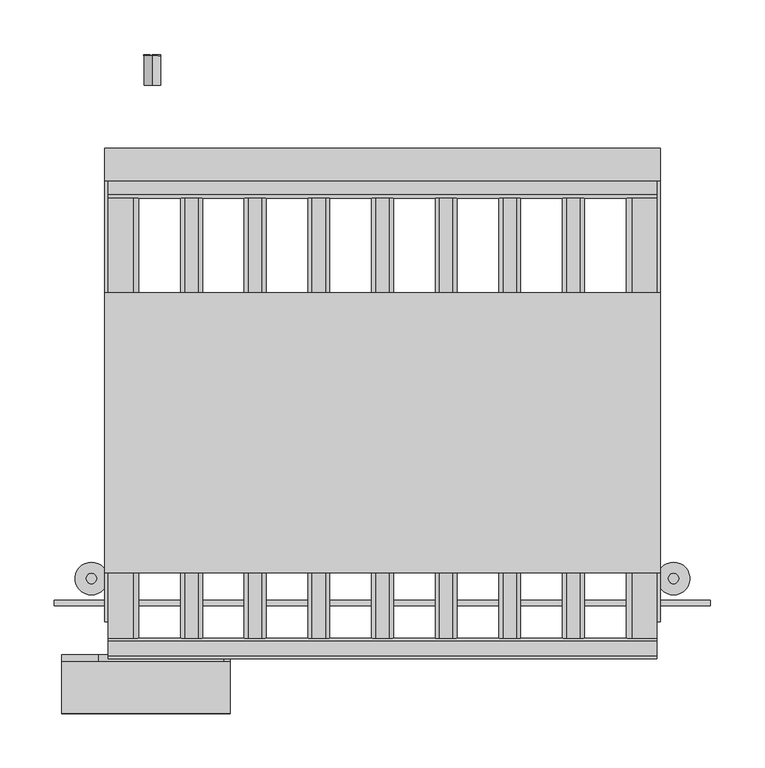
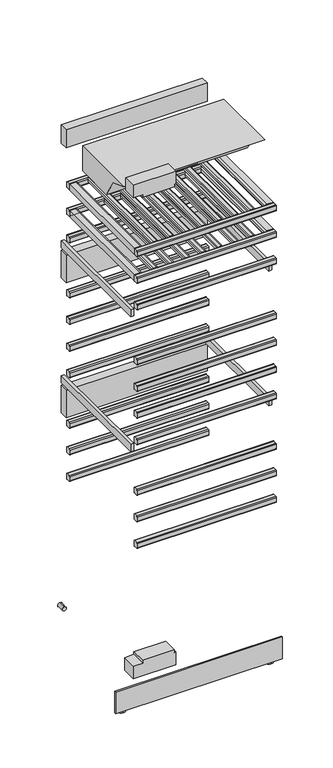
"""IFC4 building model written with IfcOpenShell, lengths in millimetres: proxy geometry, 11917850_ROK_KWT2611VI : 36261105_ROK_11917850_KWT2611VI."""

from ifc_helpers import new_model, si_unit, point, frame, frame_2d, origin, place, context, project, spatial, polyline, circle_curve, trimmed, segment, composite_curve, outline, extrude, source, transform, mapped, element, save
from ifc_brep_helpers import plane_surface, cylinder_surface, advanced_brep


def specialty_equipment_6ad02c8c(model_context):
    return source(origin(), model_context, "Body", "SolidModel", [
        extrude(outline(composite_curve([segment(polyline([(53.0, 680.0), (66.0, 680.0)]), True, "CONTINUOUS"), segment(trimmed(circle_curve(frame_2d((66.0, 677.0)), 3.0), [point((66.0, 680.0))], [point((69.0, 677.0))], False, "CARTESIAN"), True, "CONTINUOUS"), segment(polyline([(69.0, 677.0), (69.0, 661.0)]), True, "CONTINUOUS"), segment(trimmed(circle_curve(frame_2d((66.0, 661.0)), 3.0), [point((69.0, 661.0))], [point((66.0, 658.0))], False, "CARTESIAN"), True, "CONTINUOUS"), segment(polyline([(66.0, 658.0), (53.0, 658.0)]), True, "CONTINUOUS"), segment(trimmed(circle_curve(frame_2d((53.0, 661.0)), 3.0), [point((53.0, 658.0))], [point((50.0, 661.0))], False, "CARTESIAN"), True, "CONTINUOUS"), segment(polyline([(50.0, 661.0), (50.0, 677.0)]), True, "CONTINUOUS"), segment(trimmed(circle_curve(frame_2d((53.0, 677.0)), 3.0), [point((50.0, 677.0))], [point((53.0, 680.0))], False, "CARTESIAN"), True, "CONTINUOUS")], self_intersect=False)), frame((-252.0, 0.0, 0.0), z_axis=(1.0, 0.0, 0.0), x_axis=(0.0, 1.0, 0.0)), (0.0, 0.0, 1.0), 504.0),
        extrude(outline(composite_curve([segment(polyline([(476.0, 680.0), (489.0, 680.0)]), True, "CONTINUOUS"), segment(trimmed(circle_curve(frame_2d((489.0, 677.0)), 3.0), [point((489.0, 680.0))], [point((492.0, 677.0))], False, "CARTESIAN"), True, "CONTINUOUS"), segment(polyline([(492.0, 677.0), (492.0, 661.0)]), True, "CONTINUOUS"), segment(trimmed(circle_curve(frame_2d((489.0, 661.0)), 3.0), [point((492.0, 661.0))], [point((489.0, 658.0))], False, "CARTESIAN"), True, "CONTINUOUS"), segment(polyline([(489.0, 658.0), (476.0, 658.0)]), True, "CONTINUOUS"), segment(trimmed(circle_curve(frame_2d((476.0, 661.0)), 3.0), [point((476.0, 658.0))], [point((473.0, 661.0))], False, "CARTESIAN"), True, "CONTINUOUS"), segment(polyline([(473.0, 661.0), (473.0, 677.0)]), True, "CONTINUOUS"), segment(trimmed(circle_curve(frame_2d((476.0, 677.0)), 3.0), [point((473.0, 677.0))], [point((476.0, 680.0))], False, "CARTESIAN"), True, "CONTINUOUS")], self_intersect=False)), frame((-252.0, 0.0, 0.0), z_axis=(1.0, 0.0, 0.0), x_axis=(0.0, 1.0, 0.0)), (0.0, 0.0, 1.0), 504.0),
        extrude(outline(composite_curve([segment(polyline([(53.0, 782.0), (66.0, 782.0)]), True, "CONTINUOUS"), segment(trimmed(circle_curve(frame_2d((66.0, 779.0)), 3.0), [point((66.0, 782.0))], [point((69.0, 779.0))], False, "CARTESIAN"), True, "CONTINUOUS"), segment(polyline([(69.0, 779.0), (69.0, 763.0)]), True, "CONTINUOUS"), segment(trimmed(circle_curve(frame_2d((66.0, 763.0)), 3.0), [point((69.0, 763.0))], [point((66.0, 760.0))], False, "CARTESIAN"), True, "CONTINUOUS"), segment(polyline([(66.0, 760.0), (53.0, 760.0)]), True, "CONTINUOUS"), segment(trimmed(circle_curve(frame_2d((53.0, 763.0)), 3.0), [point((53.0, 760.0))], [point((50.0, 763.0))], False, "CARTESIAN"), True, "CONTINUOUS"), segment(polyline([(50.0, 763.0), (50.0, 779.0)]), True, "CONTINUOUS"), segment(trimmed(circle_curve(frame_2d((53.0, 779.0)), 3.0), [point((50.0, 779.0))], [point((53.0, 782.0))], False, "CARTESIAN"), True, "CONTINUOUS")], self_intersect=False)), frame((-252.0, 0.0, 0.0), z_axis=(1.0, 0.0, 0.0), x_axis=(0.0, 1.0, 0.0)), (0.0, 0.0, 1.0), 504.0),
        extrude(outline(composite_curve([segment(polyline([(476.0, 782.0), (489.0, 782.0)]), True, "CONTINUOUS"), segment(trimmed(circle_curve(frame_2d((489.0, 779.0)), 3.0), [point((489.0, 782.0))], [point((492.0, 779.0))], False, "CARTESIAN"), True, "CONTINUOUS"), segment(polyline([(492.0, 779.0), (492.0, 763.0)]), True, "CONTINUOUS"), segment(trimmed(circle_curve(frame_2d((489.0, 763.0)), 3.0), [point((492.0, 763.0))], [point((489.0, 760.0))], False, "CARTESIAN"), True, "CONTINUOUS"), segment(polyline([(489.0, 760.0), (476.0, 760.0)]), True, "CONTINUOUS"), segment(trimmed(circle_curve(frame_2d((476.0, 763.0)), 3.0), [point((476.0, 760.0))], [point((473.0, 763.0))], False, "CARTESIAN"), True, "CONTINUOUS"), segment(polyline([(473.0, 763.0), (473.0, 779.0)]), True, "CONTINUOUS"), segment(trimmed(circle_curve(frame_2d((476.0, 779.0)), 3.0), [point((473.0, 779.0))], [point((476.0, 782.0))], False, "CARTESIAN"), True, "CONTINUOUS")], self_intersect=False)), frame((-252.0, 0.0, 0.0), z_axis=(1.0, 0.0, 0.0), x_axis=(0.0, 1.0, 0.0)), (0.0, 0.0, 1.0), 504.0),
        extrude(outline(composite_curve([segment(polyline([(53.0, 884.0), (66.0, 884.0)]), True, "CONTINUOUS"), segment(trimmed(circle_curve(frame_2d((66.0, 881.0)), 3.0), [point((66.0, 884.0))], [point((69.0, 881.0))], False, "CARTESIAN"), True, "CONTINUOUS"), segment(polyline([(69.0, 881.0), (69.0, 865.0)]), True, "CONTINUOUS"), segment(trimmed(circle_curve(frame_2d((66.0, 865.0)), 3.0), [point((69.0, 865.0))], [point((66.0, 862.0))], False, "CARTESIAN"), True, "CONTINUOUS"), segment(polyline([(66.0, 862.0), (53.0, 862.0)]), True, "CONTINUOUS"), segment(trimmed(circle_curve(frame_2d((53.0, 865.0)), 3.0), [point((53.0, 862.0))], [point((50.0, 865.0))], False, "CARTESIAN"), True, "CONTINUOUS"), segment(polyline([(50.0, 865.0), (50.0, 881.0)]), True, "CONTINUOUS"), segment(trimmed(circle_curve(frame_2d((53.0, 881.0)), 3.0), [point((50.0, 881.0))], [point((53.0, 884.0))], False, "CARTESIAN"), True, "CONTINUOUS")], self_intersect=False)), frame((-252.0, 0.0, 0.0), z_axis=(1.0, 0.0, 0.0), x_axis=(0.0, 1.0, 0.0)), (0.0, 0.0, 1.0), 504.0),
        extrude(outline(composite_curve([segment(polyline([(476.0, 884.0), (489.0, 884.0)]), True, "CONTINUOUS"), segment(trimmed(circle_curve(frame_2d((489.0, 881.0)), 3.0), [point((489.0, 884.0))], [point((492.0, 881.0))], False, "CARTESIAN"), True, "CONTINUOUS"), segment(polyline([(492.0, 881.0), (492.0, 865.0)]), True, "CONTINUOUS"), segment(trimmed(circle_curve(frame_2d((489.0, 865.0)), 3.0), [point((492.0, 865.0))], [point((489.0, 862.0))], False, "CARTESIAN"), True, "CONTINUOUS"), segment(polyline([(489.0, 862.0), (476.0, 862.0)]), True, "CONTINUOUS"), segment(trimmed(circle_curve(frame_2d((476.0, 865.0)), 3.0), [point((476.0, 862.0))], [point((473.0, 865.0))], False, "CARTESIAN"), True, "CONTINUOUS"), segment(polyline([(473.0, 865.0), (473.0, 881.0)]), True, "CONTINUOUS"), segment(trimmed(circle_curve(frame_2d((476.0, 881.0)), 3.0), [point((473.0, 881.0))], [point((476.0, 884.0))], False, "CARTESIAN"), True, "CONTINUOUS")], self_intersect=False)), frame((-252.0, 0.0, 0.0), z_axis=(1.0, 0.0, 0.0), x_axis=(0.0, 1.0, 0.0)), (0.0, 0.0, 1.0), 504.0),
        extrude(outline(composite_curve([segment(polyline([(53.0, 1077.0), (66.0, 1077.0)]), True, "CONTINUOUS"), segment(trimmed(circle_curve(frame_2d((66.0, 1074.0)), 3.0), [point((66.0, 1077.0))], [point((69.0, 1074.0))], False, "CARTESIAN"), True, "CONTINUOUS"), segment(polyline([(69.0, 1074.0), (69.0, 1058.0)]), True, "CONTINUOUS"), segment(trimmed(circle_curve(frame_2d((66.0, 1058.0)), 3.0), [point((69.0, 1058.0))], [point((66.0, 1055.0))], False, "CARTESIAN"), True, "CONTINUOUS"), segment(polyline([(66.0, 1055.0), (53.0, 1055.0)]), True, "CONTINUOUS"), segment(trimmed(circle_curve(frame_2d((53.0, 1058.0)), 3.0), [point((53.0, 1055.0))], [point((50.0, 1058.0))], False, "CARTESIAN"), True, "CONTINUOUS"), segment(polyline([(50.0, 1058.0), (50.0, 1074.0)]), True, "CONTINUOUS"), segment(trimmed(circle_curve(frame_2d((53.0, 1074.0)), 3.0), [point((50.0, 1074.0))], [point((53.0, 1077.0))], False, "CARTESIAN"), True, "CONTINUOUS")], self_intersect=False)), frame((-252.0, 0.0, 0.0), z_axis=(1.0, 0.0, 0.0), x_axis=(0.0, 1.0, 0.0)), (0.0, 0.0, 1.0), 504.0),
        extrude(outline(composite_curve([segment(polyline([(476.0, 1077.0), (489.0, 1077.0)]), True, "CONTINUOUS"), segment(trimmed(circle_curve(frame_2d((489.0, 1074.0)), 3.0), [point((489.0, 1077.0))], [point((492.0, 1074.0))], False, "CARTESIAN"), True, "CONTINUOUS"), segment(polyline([(492.0, 1074.0), (492.0, 1058.0)]), True, "CONTINUOUS"), segment(trimmed(circle_curve(frame_2d((489.0, 1058.0)), 3.0), [point((492.0, 1058.0))], [point((489.0, 1055.0))], False, "CARTESIAN"), True, "CONTINUOUS"), segment(polyline([(489.0, 1055.0), (476.0, 1055.0)]), True, "CONTINUOUS"), segment(trimmed(circle_curve(frame_2d((476.0, 1058.0)), 3.0), [point((476.0, 1055.0))], [point((473.0, 1058.0))], False, "CARTESIAN"), True, "CONTINUOUS"), segment(polyline([(473.0, 1058.0), (473.0, 1074.0)]), True, "CONTINUOUS"), segment(trimmed(circle_curve(frame_2d((476.0, 1074.0)), 3.0), [point((473.0, 1074.0))], [point((476.0, 1077.0))], False, "CARTESIAN"), True, "CONTINUOUS")], self_intersect=False)), frame((-252.0, 0.0, 0.0), z_axis=(1.0, 0.0, 0.0), x_axis=(0.0, 1.0, 0.0)), (0.0, 0.0, 1.0), 504.0),
        extrude(outline(composite_curve([segment(polyline([(53.0, 1179.0), (66.0, 1179.0)]), True, "CONTINUOUS"), segment(trimmed(circle_curve(frame_2d((66.0, 1176.0)), 3.0), [point((66.0, 1179.0))], [point((69.0, 1176.0))], False, "CARTESIAN"), True, "CONTINUOUS"), segment(polyline([(69.0, 1176.0), (69.0, 1160.0)]), True, "CONTINUOUS"), segment(trimmed(circle_curve(frame_2d((66.0, 1160.0)), 3.0), [point((69.0, 1160.0))], [point((66.0, 1157.0))], False, "CARTESIAN"), True, "CONTINUOUS"), segment(polyline([(66.0, 1157.0), (53.0, 1157.0)]), True, "CONTINUOUS"), segment(trimmed(circle_curve(frame_2d((53.0, 1160.0)), 3.0), [point((53.0, 1157.0))], [point((50.0, 1160.0))], False, "CARTESIAN"), True, "CONTINUOUS"), segment(polyline([(50.0, 1160.0), (50.0, 1176.0)]), True, "CONTINUOUS"), segment(trimmed(circle_curve(frame_2d((53.0, 1176.0)), 3.0), [point((50.0, 1176.0))], [point((53.0, 1179.0))], False, "CARTESIAN"), True, "CONTINUOUS")], self_intersect=False)), frame((-252.0, 0.0, 0.0), z_axis=(1.0, 0.0, 0.0), x_axis=(0.0, 1.0, 0.0)), (0.0, 0.0, 1.0), 504.0),
        extrude(outline(composite_curve([segment(polyline([(476.0, 1179.0), (489.0, 1179.0)]), True, "CONTINUOUS"), segment(trimmed(circle_curve(frame_2d((489.0, 1176.0)), 3.0), [point((489.0, 1179.0))], [point((492.0, 1176.0))], False, "CARTESIAN"), True, "CONTINUOUS"), segment(polyline([(492.0, 1176.0), (492.0, 1160.0)]), True, "CONTINUOUS"), segment(trimmed(circle_curve(frame_2d((489.0, 1160.0)), 3.0), [point((492.0, 1160.0))], [point((489.0, 1157.0))], False, "CARTESIAN"), True, "CONTINUOUS"), segment(polyline([(489.0, 1157.0), (476.0, 1157.0)]), True, "CONTINUOUS"), segment(trimmed(circle_curve(frame_2d((476.0, 1160.0)), 3.0), [point((476.0, 1157.0))], [point((473.0, 1160.0))], False, "CARTESIAN"), True, "CONTINUOUS"), segment(polyline([(473.0, 1160.0), (473.0, 1176.0)]), True, "CONTINUOUS"), segment(trimmed(circle_curve(frame_2d((476.0, 1176.0)), 3.0), [point((473.0, 1176.0))], [point((476.0, 1179.0))], False, "CARTESIAN"), True, "CONTINUOUS")], self_intersect=False)), frame((-252.0, 0.0, 0.0), z_axis=(1.0, 0.0, 0.0), x_axis=(0.0, 1.0, 0.0)), (0.0, 0.0, 1.0), 504.0),
        extrude(outline(composite_curve([segment(polyline([(53.0, 1281.0), (66.0, 1281.0)]), True, "CONTINUOUS"), segment(trimmed(circle_curve(frame_2d((66.0, 1278.0)), 3.0), [point((66.0, 1281.0))], [point((69.0, 1278.0))], False, "CARTESIAN"), True, "CONTINUOUS"), segment(polyline([(69.0, 1278.0), (69.0, 1262.0)]), True, "CONTINUOUS"), segment(trimmed(circle_curve(frame_2d((66.0, 1262.0)), 3.0), [point((69.0, 1262.0))], [point((66.0, 1259.0))], False, "CARTESIAN"), True, "CONTINUOUS"), segment(polyline([(66.0, 1259.0), (53.0, 1259.0)]), True, "CONTINUOUS"), segment(trimmed(circle_curve(frame_2d((53.0, 1262.0)), 3.0), [point((53.0, 1259.0))], [point((50.0, 1262.0))], False, "CARTESIAN"), True, "CONTINUOUS"), segment(polyline([(50.0, 1262.0), (50.0, 1278.0)]), True, "CONTINUOUS"), segment(trimmed(circle_curve(frame_2d((53.0, 1278.0)), 3.0), [point((50.0, 1278.0))], [point((53.0, 1281.0))], False, "CARTESIAN"), True, "CONTINUOUS")], self_intersect=False)), frame((-252.0, 0.0, 0.0), z_axis=(1.0, 0.0, 0.0), x_axis=(0.0, 1.0, 0.0)), (0.0, 0.0, 1.0), 504.0),
        extrude(outline(composite_curve([segment(polyline([(476.0, 1281.0), (489.0, 1281.0)]), True, "CONTINUOUS"), segment(trimmed(circle_curve(frame_2d((489.0, 1278.0)), 3.0), [point((489.0, 1281.0))], [point((492.0, 1278.0))], False, "CARTESIAN"), True, "CONTINUOUS"), segment(polyline([(492.0, 1278.0), (492.0, 1262.0)]), True, "CONTINUOUS"), segment(trimmed(circle_curve(frame_2d((489.0, 1262.0)), 3.0), [point((492.0, 1262.0))], [point((489.0, 1259.0))], False, "CARTESIAN"), True, "CONTINUOUS"), segment(polyline([(489.0, 1259.0), (476.0, 1259.0)]), True, "CONTINUOUS"), segment(trimmed(circle_curve(frame_2d((476.0, 1262.0)), 3.0), [point((476.0, 1259.0))], [point((473.0, 1262.0))], False, "CARTESIAN"), True, "CONTINUOUS"), segment(polyline([(473.0, 1262.0), (473.0, 1278.0)]), True, "CONTINUOUS"), segment(trimmed(circle_curve(frame_2d((476.0, 1278.0)), 3.0), [point((473.0, 1278.0))], [point((476.0, 1281.0))], False, "CARTESIAN"), True, "CONTINUOUS")], self_intersect=False)), frame((-252.0, 0.0, 0.0), z_axis=(1.0, 0.0, 0.0), x_axis=(0.0, 1.0, 0.0)), (0.0, 0.0, 1.0), 504.0),
        extrude(outline(composite_curve([segment(polyline([(53.0, 1383.0), (66.0, 1383.0)]), True, "CONTINUOUS"), segment(trimmed(circle_curve(frame_2d((66.0, 1380.0)), 3.0), [point((66.0, 1383.0))], [point((69.0, 1380.0))], False, "CARTESIAN"), True, "CONTINUOUS"), segment(polyline([(69.0, 1380.0), (69.0, 1364.0)]), True, "CONTINUOUS"), segment(trimmed(circle_curve(frame_2d((66.0, 1364.0)), 3.0), [point((69.0, 1364.0))], [point((66.0, 1361.0))], False, "CARTESIAN"), True, "CONTINUOUS"), segment(polyline([(66.0, 1361.0), (53.0, 1361.0)]), True, "CONTINUOUS"), segment(trimmed(circle_curve(frame_2d((53.0, 1364.0)), 3.0), [point((53.0, 1361.0))], [point((50.0, 1364.0))], False, "CARTESIAN"), True, "CONTINUOUS"), segment(polyline([(50.0, 1364.0), (50.0, 1380.0)]), True, "CONTINUOUS"), segment(trimmed(circle_curve(frame_2d((53.0, 1380.0)), 3.0), [point((50.0, 1380.0))], [point((53.0, 1383.0))], False, "CARTESIAN"), True, "CONTINUOUS")], self_intersect=False)), frame((-252.0, 0.0, 0.0), z_axis=(1.0, 0.0, 0.0), x_axis=(0.0, 1.0, 0.0)), (0.0, 0.0, 1.0), 504.0),
        extrude(outline(composite_curve([segment(polyline([(476.0, 1383.0), (489.0, 1383.0)]), True, "CONTINUOUS"), segment(trimmed(circle_curve(frame_2d((489.0, 1380.0)), 3.0), [point((489.0, 1383.0))], [point((492.0, 1380.0))], False, "CARTESIAN"), True, "CONTINUOUS"), segment(polyline([(492.0, 1380.0), (492.0, 1364.0)]), True, "CONTINUOUS"), segment(trimmed(circle_curve(frame_2d((489.0, 1364.0)), 3.0), [point((492.0, 1364.0))], [point((489.0, 1361.0))], False, "CARTESIAN"), True, "CONTINUOUS"), segment(polyline([(489.0, 1361.0), (476.0, 1361.0)]), True, "CONTINUOUS"), segment(trimmed(circle_curve(frame_2d((476.0, 1364.0)), 3.0), [point((476.0, 1361.0))], [point((473.0, 1364.0))], False, "CARTESIAN"), True, "CONTINUOUS"), segment(polyline([(473.0, 1364.0), (473.0, 1380.0)]), True, "CONTINUOUS"), segment(trimmed(circle_curve(frame_2d((476.0, 1380.0)), 3.0), [point((473.0, 1380.0))], [point((476.0, 1383.0))], False, "CARTESIAN"), True, "CONTINUOUS")], self_intersect=False)), frame((-252.0, 0.0, 0.0), z_axis=(1.0, 0.0, 0.0), x_axis=(0.0, 1.0, 0.0)), (0.0, 0.0, 1.0), 504.0),
        extrude(outline(composite_curve([segment(polyline([(53.0, 1593.0), (66.0, 1593.0)]), True, "CONTINUOUS"), segment(trimmed(circle_curve(frame_2d((66.0, 1590.0)), 3.0), [point((66.0, 1593.0))], [point((69.0, 1590.0))], False, "CARTESIAN"), True, "CONTINUOUS"), segment(polyline([(69.0, 1590.0), (69.0, 1574.0)]), True, "CONTINUOUS"), segment(trimmed(circle_curve(frame_2d((66.0, 1574.0)), 3.0), [point((69.0, 1574.0))], [point((66.0, 1571.0))], False, "CARTESIAN"), True, "CONTINUOUS"), segment(polyline([(66.0, 1571.0), (53.0, 1571.0)]), True, "CONTINUOUS"), segment(trimmed(circle_curve(frame_2d((53.0, 1574.0)), 3.0), [point((53.0, 1571.0))], [point((50.0, 1574.0))], False, "CARTESIAN"), True, "CONTINUOUS"), segment(polyline([(50.0, 1574.0), (50.0, 1590.0)]), True, "CONTINUOUS"), segment(trimmed(circle_curve(frame_2d((53.0, 1590.0)), 3.0), [point((50.0, 1590.0))], [point((53.0, 1593.0))], False, "CARTESIAN"), True, "CONTINUOUS")], self_intersect=False)), frame((-252.0, 0.0, 0.0), z_axis=(1.0, 0.0, 0.0), x_axis=(0.0, 1.0, 0.0)), (0.0, 0.0, 1.0), 504.0),
        extrude(outline(composite_curve([segment(polyline([(476.0, 1593.0), (489.0, 1593.0)]), True, "CONTINUOUS"), segment(trimmed(circle_curve(frame_2d((489.0, 1590.0)), 3.0), [point((489.0, 1593.0))], [point((492.0, 1590.0))], False, "CARTESIAN"), True, "CONTINUOUS"), segment(polyline([(492.0, 1590.0), (492.0, 1574.0)]), True, "CONTINUOUS"), segment(trimmed(circle_curve(frame_2d((489.0, 1574.0)), 3.0), [point((492.0, 1574.0))], [point((489.0, 1571.0))], False, "CARTESIAN"), True, "CONTINUOUS"), segment(polyline([(489.0, 1571.0), (476.0, 1571.0)]), True, "CONTINUOUS"), segment(trimmed(circle_curve(frame_2d((476.0, 1574.0)), 3.0), [point((476.0, 1571.0))], [point((473.0, 1574.0))], False, "CARTESIAN"), True, "CONTINUOUS"), segment(polyline([(473.0, 1574.0), (473.0, 1590.0)]), True, "CONTINUOUS"), segment(trimmed(circle_curve(frame_2d((476.0, 1590.0)), 3.0), [point((473.0, 1590.0))], [point((476.0, 1593.0))], False, "CARTESIAN"), True, "CONTINUOUS")], self_intersect=False)), frame((-252.0, 0.0, 0.0), z_axis=(1.0, 0.0, 0.0), x_axis=(0.0, 1.0, 0.0)), (0.0, 0.0, 1.0), 504.0),
        extrude(outline(composite_curve([segment(polyline([(53.0, 1695.0), (66.0, 1695.0)]), True, "CONTINUOUS"), segment(trimmed(circle_curve(frame_2d((66.0, 1692.0)), 3.0), [point((66.0, 1695.0))], [point((69.0, 1692.0))], False, "CARTESIAN"), True, "CONTINUOUS"), segment(polyline([(69.0, 1692.0), (69.0, 1676.0)]), True, "CONTINUOUS"), segment(trimmed(circle_curve(frame_2d((66.0, 1676.0)), 3.0), [point((69.0, 1676.0))], [point((66.0, 1673.0))], False, "CARTESIAN"), True, "CONTINUOUS"), segment(polyline([(66.0, 1673.0), (53.0, 1673.0)]), True, "CONTINUOUS"), segment(trimmed(circle_curve(frame_2d((53.0, 1676.0)), 3.0), [point((53.0, 1673.0))], [point((50.0, 1676.0))], False, "CARTESIAN"), True, "CONTINUOUS"), segment(polyline([(50.0, 1676.0), (50.0, 1692.0)]), True, "CONTINUOUS"), segment(trimmed(circle_curve(frame_2d((53.0, 1692.0)), 3.0), [point((50.0, 1692.0))], [point((53.0, 1695.0))], False, "CARTESIAN"), True, "CONTINUOUS")], self_intersect=False)), frame((-252.0, 0.0, 0.0), z_axis=(1.0, 0.0, 0.0), x_axis=(0.0, 1.0, 0.0)), (0.0, 0.0, 1.0), 504.0),
        extrude(outline(composite_curve([segment(polyline([(476.0, 1695.0), (489.0, 1695.0)]), True, "CONTINUOUS"), segment(trimmed(circle_curve(frame_2d((489.0, 1692.0)), 3.0), [point((489.0, 1695.0))], [point((492.0, 1692.0))], False, "CARTESIAN"), True, "CONTINUOUS"), segment(polyline([(492.0, 1692.0), (492.0, 1676.0)]), True, "CONTINUOUS"), segment(trimmed(circle_curve(frame_2d((489.0, 1676.0)), 3.0), [point((492.0, 1676.0))], [point((489.0, 1673.0))], False, "CARTESIAN"), True, "CONTINUOUS"), segment(polyline([(489.0, 1673.0), (476.0, 1673.0)]), True, "CONTINUOUS"), segment(trimmed(circle_curve(frame_2d((476.0, 1676.0)), 3.0), [point((476.0, 1673.0))], [point((473.0, 1676.0))], False, "CARTESIAN"), True, "CONTINUOUS"), segment(polyline([(473.0, 1676.0), (473.0, 1692.0)]), True, "CONTINUOUS"), segment(trimmed(circle_curve(frame_2d((476.0, 1692.0)), 3.0), [point((473.0, 1692.0))], [point((476.0, 1695.0))], False, "CARTESIAN"), True, "CONTINUOUS")], self_intersect=False)), frame((-252.0, 0.0, 0.0), z_axis=(1.0, 0.0, 0.0), x_axis=(0.0, 1.0, 0.0)), (0.0, 0.0, 1.0), 504.0),
        extrude(outline(composite_curve([segment(polyline([(1695.0, -252.0), (1673.0, -252.0), (1673.0, -229.0)]), True, "CONTINUOUS"), segment(trimmed(circle_curve(frame_2d((1678.0, -229.0)), 5.0), [point((1673.0, -229.0))], [point((1678.0, -224.0))], False, "CARTESIAN"), True, "CONTINUOUS"), segment(polyline([(1678.0, -224.0), (1690.0, -224.0)]), True, "CONTINUOUS"), segment(trimmed(circle_curve(frame_2d((1690.0, -229.0)), 5.0), [point((1690.0, -224.0))], [point((1695.0, -229.0))], False, "CARTESIAN"), True, "CONTINUOUS"), segment(polyline([(1695.0, -229.0), (1695.0, -252.0)]), True, "CONTINUOUS")], self_intersect=False)), frame((0.0, 69.0, 0.0), z_axis=(0.0, 1.0, 0.0), x_axis=(0.0, 0.0, 1.0)), (0.0, 0.0, 1.0), 404.0),
        extrude(outline(composite_curve([segment(polyline([(1691.0, -185.5), (1683.039218, -185.5), (1683.039218, -165.5), (1691.0, -165.5)]), True, "CONTINUOUS"), segment(trimmed(circle_curve(frame_2d((1691.0, -169.5)), 4.0), [point((1691.0, -165.5))], [point((1695.0, -169.5))], False, "CARTESIAN"), True, "CONTINUOUS"), segment(polyline([(1695.0, -169.5), (1695.0, -181.5)]), True, "CONTINUOUS"), segment(trimmed(circle_curve(frame_2d((1691.0, -181.5)), 4.0), [point((1695.0, -181.5))], [point((1691.0, -185.5))], False, "CARTESIAN"), True, "CONTINUOUS")], self_intersect=False)), frame((0.0, 69.0, 0.0), z_axis=(0.0, 1.0, 0.0), x_axis=(0.0, 0.0, 1.0)), (0.0, 0.0, 1.0), 404.0),
        extrude(outline(composite_curve([segment(polyline([(1695.0, 252.0), (1695.0, 229.0)]), True, "CONTINUOUS"), segment(trimmed(circle_curve(frame_2d((1690.0, 229.0)), 5.0), [point((1695.0, 229.0))], [point((1690.0, 224.0))], False, "CARTESIAN"), True, "CONTINUOUS"), segment(polyline([(1690.0, 224.0), (1678.0, 224.0)]), True, "CONTINUOUS"), segment(trimmed(circle_curve(frame_2d((1678.0, 229.0)), 5.0), [point((1678.0, 224.0))], [point((1673.0, 229.0))], False, "CARTESIAN"), True, "CONTINUOUS"), segment(polyline([(1673.0, 229.0), (1673.0, 252.0), (1695.0, 252.0)]), True, "CONTINUOUS")], self_intersect=False)), frame((0.0, 69.0, 0.0), z_axis=(0.0, 1.0, 0.0), x_axis=(0.0, 0.0, 1.0)), (0.0, 0.0, 1.0), 404.0),
        extrude(outline(composite_curve([segment(polyline([(1691.0, -127.0), (1683.039218, -127.0), (1683.039218, -107.0), (1691.0, -107.0)]), True, "CONTINUOUS"), segment(trimmed(circle_curve(frame_2d((1691.0, -111.0)), 4.0), [point((1691.0, -107.0))], [point((1695.0, -111.0))], False, "CARTESIAN"), True, "CONTINUOUS"), segment(polyline([(1695.0, -111.0), (1695.0, -123.0)]), True, "CONTINUOUS"), segment(trimmed(circle_curve(frame_2d((1691.0, -123.0)), 4.0), [point((1695.0, -123.0))], [point((1691.0, -127.0))], False, "CARTESIAN"), True, "CONTINUOUS")], self_intersect=False)), frame((0.0, 69.0, 0.0), z_axis=(0.0, 1.0, 0.0), x_axis=(0.0, 0.0, 1.0)), (0.0, 0.0, 1.0), 404.0),
        extrude(outline(composite_curve([segment(polyline([(1691.0, -68.5), (1683.039218, -68.5), (1683.039218, -48.5), (1691.0, -48.5)]), True, "CONTINUOUS"), segment(trimmed(circle_curve(frame_2d((1691.0, -52.5)), 4.0), [point((1691.0, -48.5))], [point((1695.0, -52.5))], False, "CARTESIAN"), True, "CONTINUOUS"), segment(polyline([(1695.0, -52.5), (1695.0, -64.5)]), True, "CONTINUOUS"), segment(trimmed(circle_curve(frame_2d((1691.0, -64.5)), 4.0), [point((1695.0, -64.5))], [point((1691.0, -68.5))], False, "CARTESIAN"), True, "CONTINUOUS")], self_intersect=False)), frame((0.0, 69.0, 0.0), z_axis=(0.0, 1.0, 0.0), x_axis=(0.0, 0.0, 1.0)), (0.0, 0.0, 1.0), 404.0),
        extrude(outline(composite_curve([segment(polyline([(1691.0, -10.0), (1683.039218, -10.0), (1683.039218, 10.0), (1691.0, 10.0)]), True, "CONTINUOUS"), segment(trimmed(circle_curve(frame_2d((1691.0, 6.0)), 4.0), [point((1691.0, 10.0))], [point((1695.0, 6.0))], False, "CARTESIAN"), True, "CONTINUOUS"), segment(polyline([(1695.0, 6.0), (1695.0, -6.0)]), True, "CONTINUOUS"), segment(trimmed(circle_curve(frame_2d((1691.0, -6.0)), 4.0), [point((1695.0, -6.0))], [point((1691.0, -10.0))], False, "CARTESIAN"), True, "CONTINUOUS")], self_intersect=False)), frame((0.0, 69.0, 0.0), z_axis=(0.0, 1.0, 0.0), x_axis=(0.0, 0.0, 1.0)), (0.0, 0.0, 1.0), 404.0),
        extrude(outline(composite_curve([segment(polyline([(1691.0, 48.5), (1683.039218, 48.5), (1683.039218, 68.5), (1691.0, 68.5)]), True, "CONTINUOUS"), segment(trimmed(circle_curve(frame_2d((1691.0, 64.5)), 4.0), [point((1691.0, 68.5))], [point((1695.0, 64.5))], False, "CARTESIAN"), True, "CONTINUOUS"), segment(polyline([(1695.0, 64.5), (1695.0, 52.5)]), True, "CONTINUOUS"), segment(trimmed(circle_curve(frame_2d((1691.0, 52.5)), 4.0), [point((1695.0, 52.5))], [point((1691.0, 48.5))], False, "CARTESIAN"), True, "CONTINUOUS")], self_intersect=False)), frame((0.0, 69.0, 0.0), z_axis=(0.0, 1.0, 0.0), x_axis=(0.0, 0.0, 1.0)), (0.0, 0.0, 1.0), 404.0),
        extrude(outline(composite_curve([segment(polyline([(1691.0, 107.0), (1683.039218, 107.0), (1683.039218, 127.0), (1691.0, 127.0)]), True, "CONTINUOUS"), segment(trimmed(circle_curve(frame_2d((1691.0, 123.0)), 4.0), [point((1691.0, 127.0))], [point((1695.0, 123.0))], False, "CARTESIAN"), True, "CONTINUOUS"), segment(polyline([(1695.0, 123.0), (1695.0, 111.0)]), True, "CONTINUOUS"), segment(trimmed(circle_curve(frame_2d((1691.0, 111.0)), 4.0), [point((1695.0, 111.0))], [point((1691.0, 107.0))], False, "CARTESIAN"), True, "CONTINUOUS")], self_intersect=False)), frame((0.0, 69.0, 0.0), z_axis=(0.0, 1.0, 0.0), x_axis=(0.0, 0.0, 1.0)), (0.0, 0.0, 1.0), 404.0),
        extrude(outline(composite_curve([segment(polyline([(1691.0, 165.5), (1683.039218, 165.5), (1683.039218, 185.5), (1691.0, 185.5)]), True, "CONTINUOUS"), segment(trimmed(circle_curve(frame_2d((1691.0, 181.5)), 4.0), [point((1691.0, 185.5))], [point((1695.0, 181.5))], False, "CARTESIAN"), True, "CONTINUOUS"), segment(polyline([(1695.0, 181.5), (1695.0, 169.5)]), True, "CONTINUOUS"), segment(trimmed(circle_curve(frame_2d((1691.0, 169.5)), 4.0), [point((1695.0, 169.5))], [point((1691.0, 165.5))], False, "CARTESIAN"), True, "CONTINUOUS")], self_intersect=False)), frame((0.0, 69.0, 0.0), z_axis=(0.0, 1.0, 0.0), x_axis=(0.0, 0.0, 1.0)), (0.0, 0.0, 1.0), 404.0),
        extrude(outline(composite_curve([segment(polyline([(1797.0, -229.0), (1797.0, -252.0), (1775.0, -252.0), (1775.0, -229.0)]), True, "CONTINUOUS"), segment(trimmed(circle_curve(frame_2d((1780.0, -229.0)), 5.0), [point((1775.0, -229.0))], [point((1780.0, -224.0))], False, "CARTESIAN"), True, "CONTINUOUS"), segment(polyline([(1780.0, -224.0), (1792.0, -224.0)]), True, "CONTINUOUS"), segment(trimmed(circle_curve(frame_2d((1792.0, -229.0)), 5.0), [point((1792.0, -224.0))], [point((1797.0, -229.0))], False, "CARTESIAN"), True, "CONTINUOUS")], self_intersect=False)), frame((0.0, 69.0, 0.0), z_axis=(0.0, 1.0, 0.0), x_axis=(0.0, 0.0, 1.0)), (0.0, 0.0, 1.0), 404.0),
        extrude(outline(composite_curve([segment(polyline([(1797.0, -169.5), (1797.0, -181.5)]), True, "CONTINUOUS"), segment(trimmed(circle_curve(frame_2d((1793.0, -181.5)), 4.0), [point((1797.0, -181.5))], [point((1793.0, -185.5))], False, "CARTESIAN"), True, "CONTINUOUS"), segment(polyline([(1793.0, -185.5), (1785.0, -185.5), (1785.0, -165.5), (1793.0, -165.5)]), True, "CONTINUOUS"), segment(trimmed(circle_curve(frame_2d((1793.0, -169.5)), 4.0), [point((1793.0, -165.5))], [point((1797.0, -169.5))], False, "CARTESIAN"), True, "CONTINUOUS")], self_intersect=False)), frame((0.0, 69.0, 0.0), z_axis=(0.0, 1.0, 0.0), x_axis=(0.0, 0.0, 1.0)), (0.0, 0.0, 1.0), 404.0),
        extrude(outline(composite_curve([segment(trimmed(circle_curve(frame_2d((1792.0, 229.0)), 5.0), [point((1797.0, 229.0))], [point((1792.0, 224.0))], False, "CARTESIAN"), True, "CONTINUOUS"), segment(polyline([(1792.0, 224.0), (1780.0, 224.0)]), True, "CONTINUOUS"), segment(trimmed(circle_curve(frame_2d((1780.0, 229.0)), 5.0), [point((1780.0, 224.0))], [point((1775.0, 229.0))], False, "CARTESIAN"), True, "CONTINUOUS"), segment(polyline([(1775.0, 229.0), (1775.0, 252.0), (1797.0, 252.0), (1797.0, 229.0)]), True, "CONTINUOUS")], self_intersect=False)), frame((0.0, 69.0, 0.0), z_axis=(0.0, 1.0, 0.0), x_axis=(0.0, 0.0, 1.0)), (0.0, 0.0, 1.0), 404.0),
        extrude(outline(composite_curve([segment(polyline([(1797.0, -111.0), (1797.0, -123.0)]), True, "CONTINUOUS"), segment(trimmed(circle_curve(frame_2d((1793.0, -123.0)), 4.0), [point((1797.0, -123.0))], [point((1793.0, -127.0))], False, "CARTESIAN"), True, "CONTINUOUS"), segment(polyline([(1793.0, -127.0), (1785.0, -127.0), (1785.0, -107.0), (1793.0, -107.0)]), True, "CONTINUOUS"), segment(trimmed(circle_curve(frame_2d((1793.0, -111.0)), 4.0), [point((1793.0, -107.0))], [point((1797.0, -111.0))], False, "CARTESIAN"), True, "CONTINUOUS")], self_intersect=False)), frame((0.0, 69.0, 0.0), z_axis=(0.0, 1.0, 0.0), x_axis=(0.0, 0.0, 1.0)), (0.0, 0.0, 1.0), 404.0),
        extrude(outline(composite_curve([segment(polyline([(1797.0, -52.5), (1797.0, -64.5)]), True, "CONTINUOUS"), segment(trimmed(circle_curve(frame_2d((1793.0, -64.5)), 4.0), [point((1797.0, -64.5))], [point((1793.0, -68.5))], False, "CARTESIAN"), True, "CONTINUOUS"), segment(polyline([(1793.0, -68.5), (1785.0, -68.5), (1785.0, -48.5), (1793.0, -48.5)]), True, "CONTINUOUS"), segment(trimmed(circle_curve(frame_2d((1793.0, -52.5)), 4.0), [point((1793.0, -48.5))], [point((1797.0, -52.5))], False, "CARTESIAN"), True, "CONTINUOUS")], self_intersect=False)), frame((0.0, 69.0, 0.0), z_axis=(0.0, 1.0, 0.0), x_axis=(0.0, 0.0, 1.0)), (0.0, 0.0, 1.0), 404.0),
        extrude(outline(composite_curve([segment(polyline([(1797.0, 6.0), (1797.0, -6.0)]), True, "CONTINUOUS"), segment(trimmed(circle_curve(frame_2d((1793.0, -6.0)), 4.0), [point((1797.0, -6.0))], [point((1793.0, -10.0))], False, "CARTESIAN"), True, "CONTINUOUS"), segment(polyline([(1793.0, -10.0), (1785.0, -10.0), (1785.0, 10.0), (1793.0, 10.0)]), True, "CONTINUOUS"), segment(trimmed(circle_curve(frame_2d((1793.0, 6.0)), 4.0), [point((1793.0, 10.0))], [point((1797.0, 6.0))], False, "CARTESIAN"), True, "CONTINUOUS")], self_intersect=False)), frame((0.0, 69.0, 0.0), z_axis=(0.0, 1.0, 0.0), x_axis=(0.0, 0.0, 1.0)), (0.0, 0.0, 1.0), 404.0),
        extrude(outline(composite_curve([segment(polyline([(1797.0, 64.5), (1797.0, 52.5)]), True, "CONTINUOUS"), segment(trimmed(circle_curve(frame_2d((1793.0, 52.5)), 4.0), [point((1797.0, 52.5))], [point((1793.0, 48.5))], False, "CARTESIAN"), True, "CONTINUOUS"), segment(polyline([(1793.0, 48.5), (1785.0, 48.5), (1785.0, 68.5), (1793.0, 68.5)]), True, "CONTINUOUS"), segment(trimmed(circle_curve(frame_2d((1793.0, 64.5)), 4.0), [point((1793.0, 68.5))], [point((1797.0, 64.5))], False, "CARTESIAN"), True, "CONTINUOUS")], self_intersect=False)), frame((0.0, 69.0, 0.0), z_axis=(0.0, 1.0, 0.0), x_axis=(0.0, 0.0, 1.0)), (0.0, 0.0, 1.0), 404.0),
        extrude(outline(composite_curve([segment(polyline([(1797.0, 123.0), (1797.0, 111.0)]), True, "CONTINUOUS"), segment(trimmed(circle_curve(frame_2d((1793.0, 111.0)), 4.0), [point((1797.0, 111.0))], [point((1793.0, 107.0))], False, "CARTESIAN"), True, "CONTINUOUS"), segment(polyline([(1793.0, 107.0), (1785.0, 107.0), (1785.0, 127.0), (1793.0, 127.0)]), True, "CONTINUOUS"), segment(trimmed(circle_curve(frame_2d((1793.0, 123.0)), 4.0), [point((1793.0, 127.0))], [point((1797.0, 123.0))], False, "CARTESIAN"), True, "CONTINUOUS")], self_intersect=False)), frame((0.0, 69.0, 0.0), z_axis=(0.0, 1.0, 0.0), x_axis=(0.0, 0.0, 1.0)), (0.0, 0.0, 1.0), 404.0),
        extrude(outline(composite_curve([segment(polyline([(1797.0, 181.5), (1797.0, 169.5)]), True, "CONTINUOUS"), segment(trimmed(circle_curve(frame_2d((1793.0, 169.5)), 4.0), [point((1797.0, 169.5))], [point((1793.0, 165.5))], False, "CARTESIAN"), True, "CONTINUOUS"), segment(polyline([(1793.0, 165.5), (1785.0, 165.5), (1785.0, 185.5), (1793.0, 185.5)]), True, "CONTINUOUS"), segment(trimmed(circle_curve(frame_2d((1793.0, 181.5)), 4.0), [point((1793.0, 185.5))], [point((1797.0, 181.5))], False, "CARTESIAN"), True, "CONTINUOUS")], self_intersect=False)), frame((0.0, 69.0, 0.0), z_axis=(0.0, 1.0, 0.0), x_axis=(0.0, 0.0, 1.0)), (0.0, 0.0, 1.0), 404.0),
        extrude(outline(composite_curve([segment(polyline([(53.0, 1797.0), (66.0, 1797.0)]), True, "CONTINUOUS"), segment(trimmed(circle_curve(frame_2d((66.0, 1794.0)), 3.0), [point((66.0, 1797.0))], [point((69.0, 1794.0))], False, "CARTESIAN"), True, "CONTINUOUS"), segment(polyline([(69.0, 1794.0), (69.0, 1778.0)]), True, "CONTINUOUS"), segment(trimmed(circle_curve(frame_2d((66.0, 1778.0)), 3.0), [point((69.0, 1778.0))], [point((66.0, 1775.0))], False, "CARTESIAN"), True, "CONTINUOUS"), segment(polyline([(66.0, 1775.0), (53.0, 1775.0)]), True, "CONTINUOUS"), segment(trimmed(circle_curve(frame_2d((53.0, 1778.0)), 3.0), [point((53.0, 1775.0))], [point((50.0, 1778.0))], False, "CARTESIAN"), True, "CONTINUOUS"), segment(polyline([(50.0, 1778.0), (50.0, 1794.0)]), True, "CONTINUOUS"), segment(trimmed(circle_curve(frame_2d((53.0, 1794.0)), 3.0), [point((50.0, 1794.0))], [point((53.0, 1797.0))], False, "CARTESIAN"), True, "CONTINUOUS")], self_intersect=False)), frame((-252.0, 0.0, 0.0), z_axis=(1.0, 0.0, 0.0), x_axis=(0.0, 1.0, 0.0)), (0.0, 0.0, 1.0), 504.0),
        extrude(outline(composite_curve([segment(polyline([(476.0, 1797.0), (489.0, 1797.0)]), True, "CONTINUOUS"), segment(trimmed(circle_curve(frame_2d((489.0, 1794.0)), 3.0), [point((489.0, 1797.0))], [point((492.0, 1794.0))], False, "CARTESIAN"), True, "CONTINUOUS"), segment(polyline([(492.0, 1794.0), (492.0, 1778.0)]), True, "CONTINUOUS"), segment(trimmed(circle_curve(frame_2d((489.0, 1778.0)), 3.0), [point((492.0, 1778.0))], [point((489.0, 1775.0))], False, "CARTESIAN"), True, "CONTINUOUS"), segment(polyline([(489.0, 1775.0), (476.0, 1775.0)]), True, "CONTINUOUS"), segment(trimmed(circle_curve(frame_2d((476.0, 1778.0)), 3.0), [point((476.0, 1775.0))], [point((473.0, 1778.0))], False, "CARTESIAN"), True, "CONTINUOUS"), segment(polyline([(473.0, 1778.0), (473.0, 1794.0)]), True, "CONTINUOUS"), segment(trimmed(circle_curve(frame_2d((476.0, 1794.0)), 3.0), [point((473.0, 1794.0))], [point((476.0, 1797.0))], False, "CARTESIAN"), True, "CONTINUOUS")], self_intersect=False)), frame((-252.0, 0.0, 0.0), z_axis=(1.0, 0.0, 0.0), x_axis=(0.0, 1.0, 0.0)), (0.0, 0.0, 1.0), 504.0),
        extrude(outline(polyline([(195.5, 1968.4), (232.625, 1909.0), (231.4457524, 1909.0), (194.3207524, 1968.4), (195.5, 1968.4)])), frame((-69.0, 0.0, 0.0), z_axis=(1.0, 0.0, 0.0), x_axis=(0.0, 1.0, 0.0)), (0.0, 0.0, 1.0), 138.0),
        extrude(outline(polyline([(386.0, 1998.0), (386.0, 1902.0), (237.0, 1902.0), (192.0, 1974.0), (129.0, 1998.0), (386.0, 1998.0)])), frame((-255.5, 0.0, 0.0), z_axis=(1.0, 0.0, 0.0), x_axis=(0.0, 1.0, 0.0)), (0.0, 0.0, 1.0), 511.0),
        extrude(outline(polyline([(2095.0, -295.0), (2047.0, -295.0), (2047.0, -261.0), (2036.5, -261.0), (2036.5, -146.0), (2047.0, -146.0), (2047.0, -140.0), (2095.0, -140.0), (2095.0, -295.0)])), frame((0.0, 0.0, 0.0), z_axis=(0.0, 1.0, 0.0), x_axis=(0.0, 0.0, 1.0)), (0.0, 0.0, 1.0), 47.0),
        extrude(outline(polyline([(254.0, -295.0), (206.0, -295.0), (206.0, -140.0), (254.0, -140.0), (254.0, -146.0), (264.0, -146.0), (264.0, -261.0), (254.0, -261.0), (254.0, -295.0)])), frame((0.0, 0.0, 0.0), z_axis=(0.0, 1.0, 0.0), x_axis=(0.0, 0.0, 1.0)), (0.0, 0.0, 1.0), 54.0),
        extrude(outline(polyline([(99.0373308, -211.2645771), (97.7615342, -211.2645771), (97.7615342, -205.3195541), (94.7968516, -205.3195541), (94.7968516, -210.969579), (93.5246295, -210.969579), (93.5246295, -205.3415693), (90.2570046, -205.3415693), (90.2570046, -211.4619689), (88.9546219, -211.4619689), (88.9546219, -204.0443524), (99.0373308, -204.0443524), (99.0373308, -211.2645771)])), frame((0.0, 604.0, 0.0), z_axis=(0.0, 1.0, 0.0), x_axis=(0.0, 0.0, 1.0)), (0.0, 0.0, 1.0), 1.0),
        extrude(outline(polyline([(99.0458, -214.5619704), (90.2663944, -214.5619704), (90.2663944, -219.6145879), (89.0134802, -219.6145879), (89.0134802, -213.3423809), (99.0458, -213.3423809), (99.0458, -214.5619704)])), frame((0.0, 604.0, 0.0), z_axis=(0.0, 1.0, 0.0), x_axis=(0.0, 0.0, 1.0)), (0.0, 0.0, 1.0), 1.0),
        extrude(outline(composite_curve([segment(trimmed(circle_curve(frame_2d((94.0, -211.5)), 7.5), [point((86.5, -211.5))], [point((101.5, -211.5))], False, "CARTESIAN"), True, "CONTINUOUS"), segment(trimmed(circle_curve(frame_2d((94.0, -211.5)), 7.5), [point((101.5, -211.5))], [point((86.5, -211.5))], False, "CARTESIAN"), True, "CONTINUOUS")], self_intersect=False)), frame((0.0, 577.0, 0.0), z_axis=(0.0, 1.0, 0.0), x_axis=(0.0, 0.0, 1.0)), (0.0, 0.0, 1.0), 27.0),
        extrude(outline(polyline([(-301.5, 104.0), (301.5, 104.0), (301.5, 99.0), (-301.5, 99.0), (-301.5, 104.0)])), frame((0.0, 0.0, 14.0), z_axis=(0.0, 0.0, 1.0), x_axis=(1.0, 0.0, 0.0)), (0.0, 0.0, 1.0), 83.0),
        extrude(outline(polyline([(-244.5, 519.0), (-244.5, 84.0), (-255.5, 84.0), (-255.5, 519.0), (-244.5, 519.0)])), frame((0.0, 0.0, 1527.0), z_axis=(0.0, 0.0, 1.0), x_axis=(1.0, 0.0, 0.0)), (0.0, 0.0, 1.0), 27.0),
        extrude(outline(polyline([(-244.5, 519.0), (-244.5, 84.0), (-255.5, 84.0), (-255.5, 519.0), (-244.5, 519.0)])), frame((0.0, 0.0, 1011.0), z_axis=(0.0, 0.0, 1.0), x_axis=(1.0, 0.0, 0.0)), (0.0, 0.0, 1.0), 27.0),
        extrude(outline(polyline([(255.5, 519.0), (255.5, 84.0), (244.5, 84.0), (244.5, 519.0), (255.5, 519.0)])), frame((0.0, 0.0, 1527.0), z_axis=(0.0, 0.0, 1.0), x_axis=(1.0, 0.0, 0.0)), (0.0, 0.0, 1.0), 27.0),
        extrude(outline(polyline([(255.5, 519.0), (255.5, 84.0), (244.5, 84.0), (244.5, 519.0), (255.5, 519.0)])), frame((0.0, 0.0, 1011.0), z_axis=(0.0, 0.0, 1.0), x_axis=(1.0, 0.0, 0.0)), (0.0, 0.0, 1.0), 27.0),
        extrude(outline(polyline([(255.5, 519.0), (255.5, 489.0), (-255.5, 489.0), (-255.5, 519.0), (255.5, 519.0)])), frame((0.0, 0.0, 1928.0), z_axis=(0.0, 0.0, 1.0), x_axis=(1.0, 0.0, 0.0)), (0.0, 0.0, 1.0), 70.0),
        extrude(outline(polyline([(255.5, 519.0), (255.5, 489.0), (-255.5, 489.0), (-255.5, 519.0), (255.5, 519.0)])), frame((0.0, 0.0, 1412.0), z_axis=(0.0, 0.0, 1.0), x_axis=(1.0, 0.0, 0.0)), (0.0, 0.0, 1.0), 105.0),
        extrude(outline(polyline([(255.5, 519.0), (255.5, 489.0), (-255.5, 489.0), (-255.5, 519.0), (255.5, 519.0)])), frame((0.0, 0.0, 895.0), z_axis=(0.0, 0.0, 1.0), x_axis=(1.0, 0.0, 0.0)), (0.0, 0.0, 1.0), 105.0),
        advanced_brep(
        [(-267.5, 139.0, 0.0), (-267.5, 109.0, 0.0), (-267.5, 139.0, 7.0), (-267.5, 109.0, 7.0), (-267.5, 128.7, 7.0), (-267.5, 119.3, 7.0), (-267.5, 128.7, 28.0), (-267.5, 119.3, 28.0)],
        [
            (0, 1, circle_curve(frame((-267.5, 124.0, 0.0), z_axis=(0.0, 0.0, -1.0), x_axis=(1.0, 0.0, 0.0)), 15.0)),
            (1, 0, circle_curve(frame((-267.5, 124.0, 0.0), z_axis=(0.0, 0.0, -1.0), x_axis=(1.0, 0.0, 0.0)), 15.0)),
            (2, 3, circle_curve(frame((-267.5, 124.0, 7.0), z_axis=(0.0, 0.0, 1.0), x_axis=(1.0, 0.0, 0.0)), 15.0)),
            (3, 2, circle_curve(frame((-267.5, 124.0, 7.0), z_axis=(0.0, 0.0, 1.0), x_axis=(1.0, 0.0, 0.0)), 15.0)),
            (4, 5, circle_curve(frame((-267.5, 124.0, 7.0), z_axis=(0.0, 0.0, -1.0), x_axis=(0.0, -1.0, 0.0)), 4.7)),
            (5, 4, circle_curve(frame((-267.5, 124.0, 7.0), z_axis=(0.0, 0.0, -1.0), x_axis=(0.0, -1.0, 0.0)), 4.7)),
            (0, 2),
            (3, 1),
            (6, 7, circle_curve(frame((-267.5, 124.0, 28.0), z_axis=(0.0, 0.0, 1.0), x_axis=(0.0, -1.0, 0.0)), 4.7)),
            (7, 6, circle_curve(frame((-267.5, 124.0, 28.0), z_axis=(0.0, 0.0, 1.0), x_axis=(0.0, -1.0, 0.0)), 4.7)),
            (7, 5),
            (4, 6),
        ],
        [
            plane_surface(frame((-252.5, 124.0, 0.0), z_axis=(0.0, 0.0, -1.0), x_axis=(0.0, -1.0, 0.0))),
            plane_surface(frame((-252.5, 124.0, 7.0), z_axis=(0.0, 0.0, 1.0), x_axis=(0.0, 1.0, 0.0))),
            cylinder_surface(frame((-267.5, 124.0, 7.0), z_axis=(0.0, 0.0, -1.0), x_axis=(1.0, 0.0, 0.0)), 15.0),
            plane_surface(frame((-267.5, 119.3, 28.0), z_axis=(0.0, 0.0, 1.0), x_axis=(1.0, 0.0, 0.0))),
            cylinder_surface(frame((-267.5, 124.0, 28.0), z_axis=(0.0, 0.0, -1.0), x_axis=(0.0, -1.0, 0.0)), 4.7),
        ],
        [
            (0, [[1, 2]]),
            (1, [[3, 4], [5, 6]]),
            (2, [[-1, 7, -4, 8]]),
            (2, [[-2, -8, -3, -7]]),
            (3, [[9, 10]]),
            (4, [[-10, 11, -5, 12]]),
            (4, [[-9, -12, -6, -11]]),
        ],
    ),
        advanced_brep(
        [(267.5, 139.0, 0.0), (267.5, 109.0, 0.0), (267.5, 139.0, 7.0), (267.5, 109.0, 7.0), (267.5, 128.7, 7.0), (267.5, 119.3, 7.0), (267.5, 128.7, 28.0), (267.5, 119.3, 28.0)],
        [
            (0, 1, circle_curve(frame((267.5, 124.0, 0.0), z_axis=(0.0, 0.0, -1.0), x_axis=(1.0, 0.0, 0.0)), 15.0)),
            (1, 0, circle_curve(frame((267.5, 124.0, 0.0), z_axis=(0.0, 0.0, -1.0), x_axis=(1.0, 0.0, 0.0)), 15.0)),
            (2, 3, circle_curve(frame((267.5, 124.0, 7.0), z_axis=(0.0, 0.0, 1.0), x_axis=(1.0, 0.0, 0.0)), 15.0)),
            (3, 2, circle_curve(frame((267.5, 124.0, 7.0), z_axis=(0.0, 0.0, 1.0), x_axis=(1.0, 0.0, 0.0)), 15.0)),
            (4, 5, circle_curve(frame((267.5, 124.0, 7.0), z_axis=(0.0, 0.0, -1.0), x_axis=(0.0, -1.0, 0.0)), 4.7)),
            (5, 4, circle_curve(frame((267.5, 124.0, 7.0), z_axis=(0.0, 0.0, -1.0), x_axis=(0.0, -1.0, 0.0)), 4.7)),
            (0, 2),
            (3, 1),
            (6, 7, circle_curve(frame((267.5, 124.0, 28.0), z_axis=(0.0, 0.0, 1.0), x_axis=(0.0, -1.0, 0.0)), 4.7)),
            (7, 6, circle_curve(frame((267.5, 124.0, 28.0), z_axis=(0.0, 0.0, 1.0), x_axis=(0.0, -1.0, 0.0)), 4.7)),
            (7, 5),
            (4, 6),
        ],
        [
            plane_surface(frame((-252.5, 124.0, 0.0), z_axis=(0.0, 0.0, -1.0), x_axis=(0.0, -1.0, 0.0))),
            plane_surface(frame((-252.5, 124.0, 7.0), z_axis=(0.0, 0.0, 1.0), x_axis=(0.0, 1.0, 0.0))),
            cylinder_surface(frame((267.5, 124.0, 7.0), z_axis=(0.0, 0.0, -1.0), x_axis=(1.0, 0.0, 0.0)), 15.0),
            plane_surface(frame((-267.5, 119.3, 28.0), z_axis=(0.0, 0.0, 1.0), x_axis=(1.0, 0.0, 0.0))),
            cylinder_surface(frame((267.5, 124.0, 28.0), z_axis=(0.0, 0.0, -1.0), x_axis=(0.0, -1.0, 0.0)), 4.7),
        ],
        [
            (0, [[1, 2]]),
            (1, [[3, 4], [5, 6]]),
            (2, [[-1, 7, -4, 8]]),
            (2, [[-2, -8, -3, -7]]),
            (3, [[9, 10]]),
            (4, [[-10, 11, -5, 12]]),
            (4, [[-9, -12, -6, -11]]),
        ],
    ),
    ])


if __name__ == "__main__":
    model = new_model("IFC4")
    model_context = context("Model", 3, world=origin())
    ifc_project = project(units=[si_unit("LENGTHUNIT", "METRE", prefix="MILLI")], contexts=[model_context])
    site = spatial("IfcSite", under=ifc_project)
    building = spatial("IfcBuilding", under=site)
    placement = place(None, origin())
    specialty_equipment_shape = specialty_equipment_6ad02c8c(model_context)
    element("IfcBuildingElementProxy", 1, Name="11917850_ROK_KWT2611VI : 36261105_ROK_11917850_KWT2611VI", ObjectType="11917850_ROK_KWT2611VI : 36261105_ROK_11917850_KWT2611VI", at=placement, inside=building, context=model_context, shape_type="MappedRepresentation", body=[
        mapped(specialty_equipment_shape, transform((0.0, 0.0, 0.0), x_axis=(1.0, 0.0, 0.0), y_axis=(0.0, 1.0, 0.0), z_axis=(0.0, 0.0, 1.0))),
    ])
    save(model, "model.ifc")
